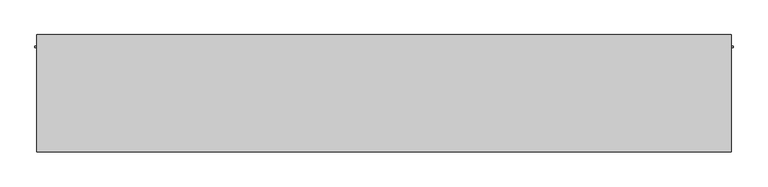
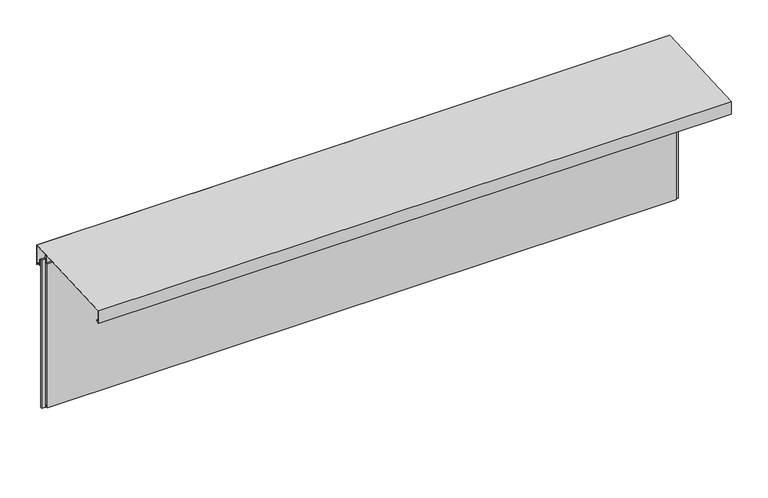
"""IFC4 building model written with IfcOpenShell, lengths in millimetres: plate geometry, Trimo_Qbiss Screen_Normal Panel-HORIZONTAL : HR - B."""

from ifc_helpers import new_model, si_unit, frame, origin, place, context, project, spatial, polyline, outline, extrude, source, transform, mapped, element, save


def plate_fc41ddc2(model_context):
    return source(origin(), model_context, "Body", "SweptSolid", [
        extrude(outline(polyline([(101.0, 868.0), (77.0, 868.0), (77.0, 868.8), (101.8, 868.8), (101.8, 831.8), (125.3313708, 831.8), (133.2, 823.9313708), (133.2, 822.8), (125.0, 831.0), (101.0, 831.0), (101.0, 868.0)])), frame((-1792.9, 0.0, 0.0), z_axis=(1.0, 0.0, 0.0), x_axis=(0.0, 1.0, 0.0)), (0.0, 0.0, 1.0), 3585.8),
        extrude(outline(polyline([(134.2, 818.9715729), (134.2, 934.1569759), (-469.2, 905.4165497), (-469.2, 833.1070922), (-457.6367532, 844.670339), (-457.0710678, 844.1046536), (-470.0, 831.1757214), (-470.0, 906.1757214), (135.0, 935.0), (135.0, 817.040202), (123.020101, 829.020101), (123.5857864, 829.5857864), (134.2, 818.9715729)])), frame((-1792.9, 0.0, 0.0), z_axis=(1.0, 0.0, 0.0), x_axis=(0.0, 1.0, 0.0)), (0.0, 0.0, 1.0), 3585.8),
        extrude(outline(polyline([(-1783.4, 76.5978162), (-1783.4, 67.8978162), (-1802.4, 67.8978162), (-1802.4, 76.5978162), (-1783.4, 76.5978162)])), frame((0.0, 0.0, -1.0), z_axis=(0.0, 0.0, 1.0), x_axis=(1.0, 0.0, 0.0)), (0.0, 0.0, 1.0), 890.0),
        extrude(outline(polyline([(1783.4, 67.8978162), (1783.4, 76.5978162), (1802.4, 76.5978162), (1802.4, 67.8978162), (1783.4, 67.8978162)])), frame((0.0, 0.0, -1.0), z_axis=(0.0, 0.0, 1.0), x_axis=(1.0, 0.0, 0.0)), (0.0, 0.0, 1.0), 890.0),
        extrude(outline(polyline([(1780.4, 76.0), (1780.4, 71.0), (-1780.4, 71.0), (-1780.4, 76.0), (1780.4, 76.0)])), frame((0.0, 0.0, 868.0), z_axis=(0.0, 0.0, 1.0), x_axis=(1.0, 0.0, 0.0)), (0.0, 0.0, 1.0), 21.0),
        extrude(outline(polyline([(71.0, 867.0), (100.0, 867.0), (100.0, 0.0), (72.0, 0.0), (72.0, 15.5), (62.0, 15.5), (62.0, 7.0), (50.0, 7.0), (50.0, 867.0), (63.0, 867.0), (63.0, 904.5), (71.0, 904.5), (71.0, 867.0)])), frame((-1780.4, 0.0, 0.0), z_axis=(1.0, 0.0, 0.0), x_axis=(0.0, 1.0, 0.0)), (0.0, 0.0, 1.0), 3560.8),
    ])


if __name__ == "__main__":
    model = new_model("IFC4")
    model_context = context("Model", 3, world=origin())
    ifc_project = project(units=[si_unit("LENGTHUNIT", "METRE", prefix="MILLI")], contexts=[model_context])
    site = spatial("IfcSite", under=ifc_project)
    building = spatial("IfcBuilding", under=site)
    placement = place(None, origin())
    plate_shape = plate_fc41ddc2(model_context)
    element("IfcPlate", 1, ObjectType="Trimo_Qbiss Screen_Normal Panel-HORIZONTAL : HR - B", at=placement, inside=building, context=model_context, shape_type="MappedRepresentation", body=[
        mapped(plate_shape, transform((0.0, 0.0, 0.0), x_axis=(1.0, 0.0, 0.0), y_axis=(0.0, 1.0, 0.0), z_axis=(0.0, 0.0, 1.0))),
    ])
    save(model, "model.ifc")
